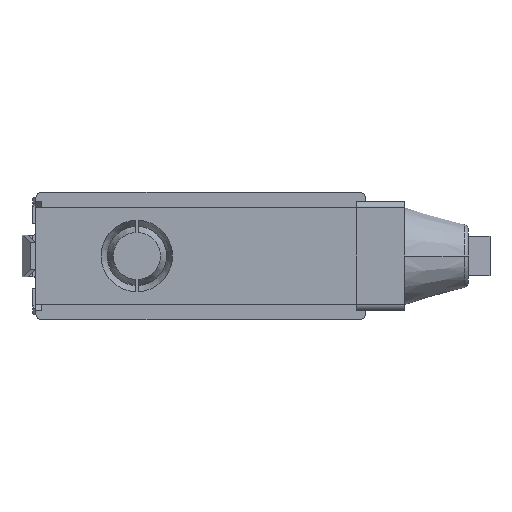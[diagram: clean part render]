
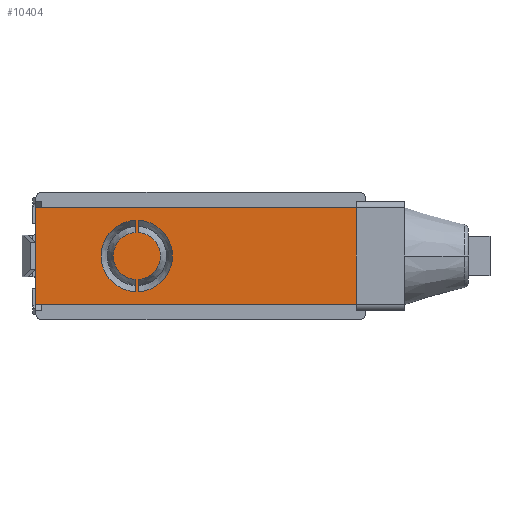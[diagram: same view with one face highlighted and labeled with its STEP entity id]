
A CAD part, front view. The second image highlights one B-rep face of the part: STEP entity #10404.
In plain terms, the highlighted planar face has unit normal (0, -1, 0).
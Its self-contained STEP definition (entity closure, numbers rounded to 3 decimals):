
#5531 = LINE ( 'NONE', #5532, #7383 ) ;
#5532 = CARTESIAN_POINT ( 'NONE',  ( -10.8, -19.6, -5.9 ) ) ;
#5533 = DIRECTION ( 'NONE',  ( 0., 0., -1. ) ) ;
#5535 = LINE ( 'NONE', #5536, #7384 ) ;
#5536 = CARTESIAN_POINT ( 'NONE',  ( -10.8, -19.6, -5.9 ) ) ;
#5537 = DIRECTION ( 'NONE',  ( 0., 0., -1. ) ) ;
#5538 = LINE ( 'NONE', #5539, #7390 ) ;
#5539 = CARTESIAN_POINT ( 'NONE',  ( -10.3, -19.6, -5.9 ) ) ;
#5540 = DIRECTION ( 'NONE',  ( 0., 0., 1. ) ) ;
#5541 = LINE ( 'NONE', #5542, #7388 ) ;
#5542 = CARTESIAN_POINT ( 'NONE',  ( -10.3, -19.6, -5.9 ) ) ;
#5543 = DIRECTION ( 'NONE',  ( 0., 0., 1. ) ) ;
#5554 = CARTESIAN_POINT ( 'NONE',  ( -10.55, -19.6, 0. ) ) ;
#5555 = DIRECTION ( 'NONE',  ( 0., -1., 0. ) ) ;
#5556 = DIRECTION ( 'NONE',  ( 0., 0., -1. ) ) ;
#5557 = CARTESIAN_POINT ( 'NONE',  ( -10.55, -19.6, 0. ) ) ;
#5558 = DIRECTION ( 'NONE',  ( 0., -1., 0. ) ) ;
#5559 = DIRECTION ( 'NONE',  ( 0., 0., -1. ) ) ;
#5764 = LINE ( 'NONE', #5765, #6901 ) ;
#5765 = CARTESIAN_POINT ( 'NONE',  ( -27.25, -19.6, 7.95 ) ) ;
#5766 = DIRECTION ( 'NONE',  ( 0., 0., -1. ) ) ;
#6901 = VECTOR ( 'NONE', #5766, 1000. ) ;
#7363 = AXIS2_PLACEMENT_3D ( 'NONE', #5557, #5558, #5559 ) ;
#7383 = VECTOR ( 'NONE', #5533, 1000. ) ;
#7384 = VECTOR ( 'NONE', #5537, 1000. ) ;
#7388 = VECTOR ( 'NONE', #5543, 1000. ) ;
#7389 = AXIS2_PLACEMENT_3D ( 'NONE', #5554, #5555, #5556 ) ;
#7390 = VECTOR ( 'NONE', #5540, 1000. ) ;
#7424 = FACE_BOUND ( 'NONE', #8239, .T. ) ;
#7430 = FACE_BOUND ( 'NONE', #8240, .T. ) ;
#7432 = FACE_OUTER_BOUND ( 'NONE', #8241, .T. ) ;
#7434 = AXIS2_PLACEMENT_3D ( 'NONE', #14087, #14088, #14089 ) ;
#7551 = VECTOR ( 'NONE', #13786, 1000. ) ;
#7644 = VECTOR ( 'NONE', #13753, 1000. ) ;
#7734 = VECTOR ( 'NONE', #12578, 1000. ) ;
#7735 = AXIS2_PLACEMENT_3D ( 'NONE', #12636, #12637, #12638 ) ;
#7770 = AXIS2_PLACEMENT_3D ( 'NONE', #12657, #12658, #12660 ) ;
#8239 = EDGE_LOOP ( 'NONE', ( #8470, #8469, #8473, #8467 ) ) ;
#8240 = EDGE_LOOP ( 'NONE', ( #8466, #8465, #8468, #8463 ) ) ;
#8241 = EDGE_LOOP ( 'NONE', ( #8462, #8461, #8460, #8464 ) ) ;
#8460 = ORIENTED_EDGE ( 'NONE', *, *, #10018, .F. ) ;
#8461 = ORIENTED_EDGE ( 'NONE', *, *, #10285, .F. ) ;
#8462 = ORIENTED_EDGE ( 'NONE', *, *, #10605, .T. ) ;
#8463 = ORIENTED_EDGE ( 'NONE', *, *, #10537, .T. ) ;
#8464 = ORIENTED_EDGE ( 'NONE', *, *, #10274, .T. ) ;
#8465 = ORIENTED_EDGE ( 'NONE', *, *, #10538, .F. ) ;
#8466 = ORIENTED_EDGE ( 'NONE', *, *, #10532, .T. ) ;
#8467 = ORIENTED_EDGE ( 'NONE', *, *, #10035, .T. ) ;
#8468 = ORIENTED_EDGE ( 'NONE', *, *, #10531, .T. ) ;
#8469 = ORIENTED_EDGE ( 'NONE', *, *, #10042, .F. ) ;
#8470 = ORIENTED_EDGE ( 'NONE', *, *, #10534, .T. ) ;
#8473 = ORIENTED_EDGE ( 'NONE', *, *, #10533, .T. ) ;
#8882 = VERTEX_POINT ( 'NONE', #12294 ) ;
#8884 = VERTEX_POINT ( 'NONE', #12296 ) ;
#8886 = VERTEX_POINT ( 'NONE', #12298 ) ;
#8887 = VERTEX_POINT ( 'NONE', #12299 ) ;
#8894 = VERTEX_POINT ( 'NONE', #12306 ) ;
#8899 = VERTEX_POINT ( 'NONE', #12311 ) ;
#8939 = VERTEX_POINT ( 'NONE', #12351 ) ;
#8942 = VERTEX_POINT ( 'NONE', #12354 ) ;
#8991 = VERTEX_POINT ( 'NONE', #12403 ) ;
#8993 = VERTEX_POINT ( 'NONE', #12405 ) ;
#8994 = VERTEX_POINT ( 'NONE', #12406 ) ;
#8995 = VERTEX_POINT ( 'NONE', #12407 ) ;
#10018 = EDGE_CURVE ( 'NONE', #8899, #8894, #12576, .T. ) ;
#10035 = EDGE_CURVE ( 'NONE', #8886, #8887, #10944, .T. ) ;
#10042 = EDGE_CURVE ( 'NONE', #8882, #8884, #10953, .T. ) ;
#10274 = EDGE_CURVE ( 'NONE', #8899, #8939, #13751, .T. ) ;
#10285 = EDGE_CURVE ( 'NONE', #8894, #8942, #13784, .T. ) ;
#10404 = ADVANCED_FACE ( 'NONE', ( #7424, #7430, #7432 ), #14086, .F. ) ;
#10531 = EDGE_CURVE ( 'NONE', #8993, #8995, #5531, .T. ) ;
#10532 = EDGE_CURVE ( 'NONE', #8994, #8991, #5535, .T. ) ;
#10533 = EDGE_CURVE ( 'NONE', #8882, #8886, #5538, .T. ) ;
#10534 = EDGE_CURVE ( 'NONE', #8887, #8884, #5541, .T. ) ;
#10537 = EDGE_CURVE ( 'NONE', #8995, #8994, #11065, .T. ) ;
#10538 = EDGE_CURVE ( 'NONE', #8993, #8991, #11078, .T. ) ;
#10605 = EDGE_CURVE ( 'NONE', #8939, #8942, #5764, .T. ) ;
#10944 = CIRCLE ( 'NONE', #7735, 3.9 ) ;
#10953 = CIRCLE ( 'NONE', #7770, 5.9 ) ;
#11065 = CIRCLE ( 'NONE', #7389, 3.9 ) ;
#11078 = CIRCLE ( 'NONE', #7363, 5.9 ) ;
#12294 = CARTESIAN_POINT ( 'NONE',  ( -10.3, -19.6, -5.895 ) ) ;
#12296 = CARTESIAN_POINT ( 'NONE',  ( -10.3, -19.6, 5.895 ) ) ;
#12298 = CARTESIAN_POINT ( 'NONE',  ( -10.3, -19.6, -3.892 ) ) ;
#12299 = CARTESIAN_POINT ( 'NONE',  ( -10.3, -19.6, 3.892 ) ) ;
#12306 = CARTESIAN_POINT ( 'NONE',  ( 27.25, -19.6, -7.95 ) ) ;
#12311 = CARTESIAN_POINT ( 'NONE',  ( 27.25, -19.6, 7.95 ) ) ;
#12351 = CARTESIAN_POINT ( 'NONE',  ( -27.25, -19.6, 7.95 ) ) ;
#12354 = CARTESIAN_POINT ( 'NONE',  ( -27.25, -19.6, -7.95 ) ) ;
#12403 = CARTESIAN_POINT ( 'NONE',  ( -10.8, -19.6, -5.895 ) ) ;
#12405 = CARTESIAN_POINT ( 'NONE',  ( -10.8, -19.6, 5.895 ) ) ;
#12406 = CARTESIAN_POINT ( 'NONE',  ( -10.8, -19.6, -3.892 ) ) ;
#12407 = CARTESIAN_POINT ( 'NONE',  ( -10.8, -19.6, 3.892 ) ) ;
#12576 = LINE ( 'NONE', #12577, #7734 ) ;
#12577 = CARTESIAN_POINT ( 'NONE',  ( 27.25, -19.6, 7.95 ) ) ;
#12578 = DIRECTION ( 'NONE',  ( 0., 0., -1. ) ) ;
#12636 = CARTESIAN_POINT ( 'NONE',  ( -10.55, -19.6, 0. ) ) ;
#12637 = DIRECTION ( 'NONE',  ( 0., -1., 0. ) ) ;
#12638 = DIRECTION ( 'NONE',  ( 0., 0., -1. ) ) ;
#12657 = CARTESIAN_POINT ( 'NONE',  ( -10.55, -19.6, 0. ) ) ;
#12658 = DIRECTION ( 'NONE',  ( 0., -1., 0. ) ) ;
#12660 = DIRECTION ( 'NONE',  ( 0., 0., -1. ) ) ;
#13751 = LINE ( 'NONE', #13752, #7644 ) ;
#13752 = CARTESIAN_POINT ( 'NONE',  ( 27.25, -19.6, 7.95 ) ) ;
#13753 = DIRECTION ( 'NONE',  ( -1., 0., 0. ) ) ;
#13784 = LINE ( 'NONE', #13785, #7551 ) ;
#13785 = CARTESIAN_POINT ( 'NONE',  ( 27.25, -19.6, -7.95 ) ) ;
#13786 = DIRECTION ( 'NONE',  ( -1., 0., 0. ) ) ;
#14086 = PLANE ( 'NONE',  #7434 ) ;
#14087 = CARTESIAN_POINT ( 'NONE',  ( 27.25, -19.6, 7.95 ) ) ;
#14088 = DIRECTION ( 'NONE',  ( 0., 1., 0. ) ) ;
#14089 = DIRECTION ( 'NONE',  ( 0., 0., 1. ) ) ;
